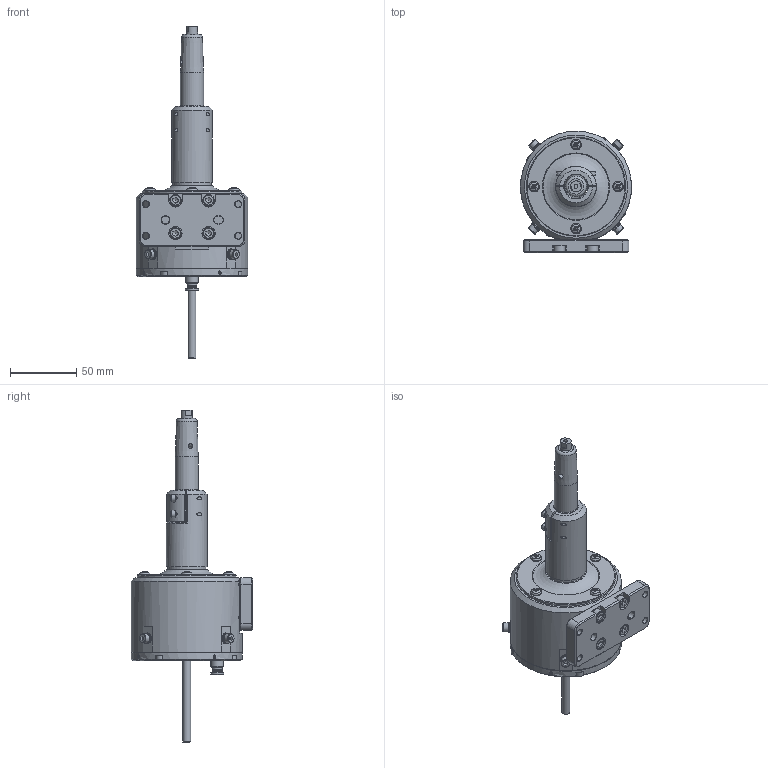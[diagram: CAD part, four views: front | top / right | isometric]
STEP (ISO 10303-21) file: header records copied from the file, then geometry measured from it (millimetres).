
FILE_DESCRIPTION(/* description */ (''),/* implementation_level */ '2;1');
FILE_NAME(/* name */ 'D:\5.工具設計\RC201\0.出圖\RC200_20221128.stp',/* time_stamp */ '2022-11-28T09:50:37+08:00',/* author */ ('Sam'),/* organization */ (''),/* preprocessor_version */ 'ST-DEVELOPER v18.1',/* originating_system */ 'Autodesk Inventor 2021',/* authorisation */ '');
FILE_SCHEMA (('AUTOMOTIVE_DESIGN { 1 0 10303 214 3 1 1 }'));
Length unit declared in the file: inch
Products named in the file (1): RC201-000-000-D_總組合_Shrinkwrap_2
Bounding box: 84 x 92 x 251 mm (x, y, z)
Volume: 238433.7 mm3; surface area: 89531.6 mm2
Topology: 4 solids, 4 shells, 947 faces, 2365 edges, 1473 vertices
Faces by surface type: plane 531, cone 201, cylinder 170, torus 41, sphere 4
Full cylindrical faces by diameter (mm): 2.459 x16, 3 x5, 3.2 x4, 3.242 x12, 3.5 x1, 4 x6, 4.3 x4, 4.5 x5, 4.917 x4, 5 x5, 5.4 x1, 5.5 x8, 6 x2, 6.3 x2, 7 x8, 7.5 x2, 7.8 x2, 8 x10, 8.35 x1, 8.5 x4, 9.7 x1, 9.9 x1, 10 x2, 11 x1, 16 x1, 17 x2, 17.55 x2, 17.75 x1, 20 x1, 23.5 x1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
Entity records: 30910 total; most frequent: CARTESIAN_POINT 7459, DIRECTION 4782, ORIENTED_EDGE 4642, EDGE_CURVE 2321, AXIS2_PLACEMENT_3D 1878, VERTEX_POINT 1471, EDGE_LOOP 1096, LINE 1026
